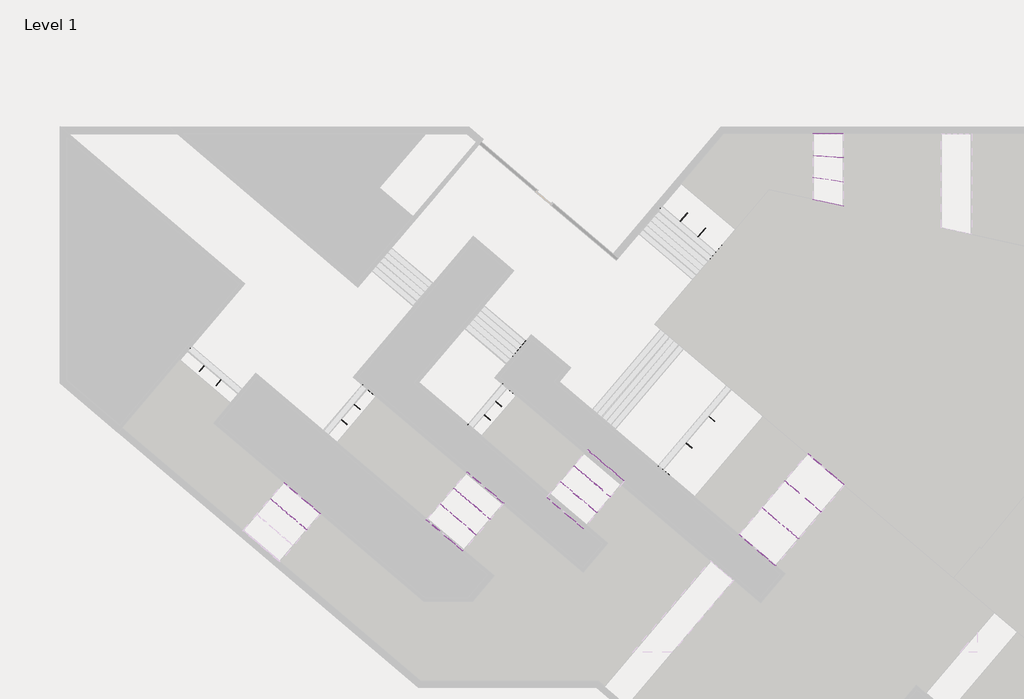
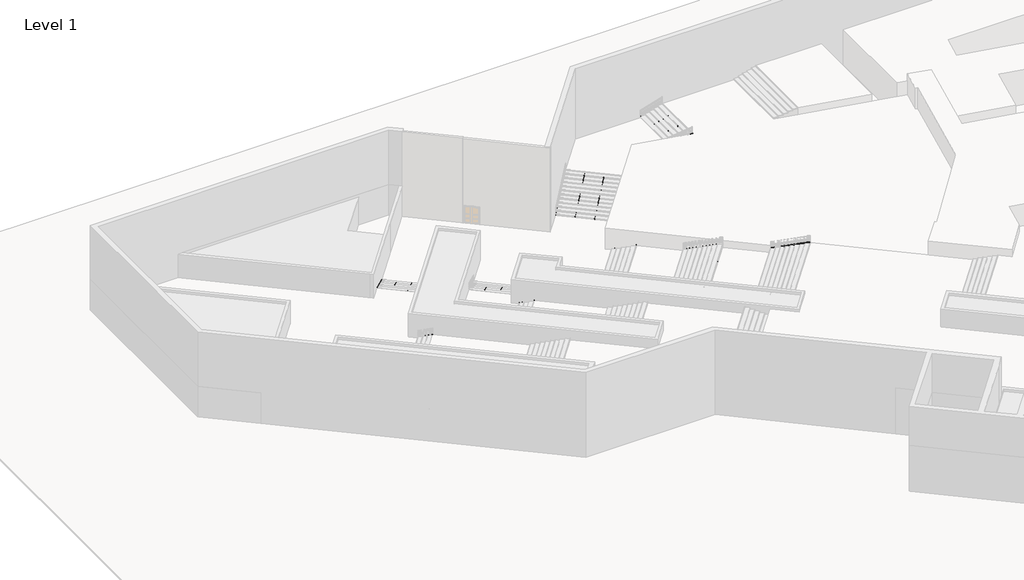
# One storey, part 2 of 2: 50 members.
"""IFC4 building model written with IfcOpenShell, lengths in millimetres."""

import ifcopenshell
import ifcopenshell.guid

model = None  # the IFC model being written
_history = None  # IfcOwnerHistory: only IFC2X3 demands one
_inside = {}  # id of a spatial element -> (the spatial element, [elements in it])
_under = {}  # id of a project, library or spatial element -> (it, [spatial elements below it])
_declared = {}  # id of a project -> (the project, [libraries it declares])
_typed = {}  # id of a type object -> (the type object, [elements of that type])
_made_of = {}  # id of a material, layer set ... -> (it, [elements and type objects made of it])


def new_model(schema):
    """Start an empty IFC model of exactly this schema.

    Asked for "IFC4X3", IfcOpenShell would pick the latest addendum, in which some entities
    have other attributes; the version numbers below select the first issue.
    IFC2X3 requires an IfcOwnerHistory on every rooted entity: one is made here for all.
    """
    global model, _history
    if schema == "IFC4X3":
        model = ifcopenshell.file(schema_version=(4, 3, 0, 0))
    else:
        model = ifcopenshell.file(schema=schema)
    _inside.clear()
    _under.clear()
    _declared.clear()
    _typed.clear()
    _made_of.clear()
    _history = None
    if model.schema == "IFC2X3":
        org = make("IfcOrganization", Name="unknown")
        user = make(
            "IfcPersonAndOrganization",
            ThePerson=make("IfcPerson", FamilyName="unknown"),
            TheOrganization=org,
        )
        app = make(
            "IfcApplication",
            ApplicationDeveloper=org,
            Version="unknown",
            ApplicationFullName="unknown",
            ApplicationIdentifier="unknown",
        )
        _history = make(
            "IfcOwnerHistory",
            OwningUser=user,
            OwningApplication=app,
            ChangeAction="ADDED",
            CreationDate=0,
        )
    return model


def make(cls, **values):
    """One entity of the class cls with the attributes given. An attribute that is None is left unset."""
    return model.create_entity(
        cls, **{name: value for name, value in values.items() if value is not None}
    )


def rooted(cls, **values):
    """An entity with a GlobalId (a new one), such as an element, a storey or a relation."""
    return make(cls, GlobalId=ifcopenshell.guid.new(), OwnerHistory=_history, **values)


def si_unit(unit_type, name, prefix=None):
    """IfcSIUnit, for example si_unit("LENGTHUNIT", "METRE", prefix="MILLI")."""
    return make("IfcSIUnit", UnitType=unit_type, Prefix=prefix, Name=name)


def assignment(units):
    """IfcUnitAssignment: the units of a project."""
    return None if units is None else make("IfcUnitAssignment", Units=units)


def point(xyz):
    """IfcCartesianPoint."""
    return None if xyz is None else make("IfcCartesianPoint", Coordinates=xyz)


def direction(xyz):
    """IfcDirection."""
    return None if xyz is None else make("IfcDirection", DirectionRatios=xyz)


def frame(location, z_axis=None, x_axis=None):
    """IfcAxis2Placement3D, a coordinate frame: its origin and axes. An axis left out is left unset."""
    return make(
        "IfcAxis2Placement3D",
        Location=point(location),
        Axis=direction(z_axis),
        RefDirection=direction(x_axis),
    )


def origin():
    """The frame at (0, 0, 0) with its axes left unset."""
    return frame((0.0, 0.0, 0.0))


def place(relative_to, where):
    """IfcLocalPlacement: puts the frame where relative to a parent placement (None: the world)."""
    return make(
        "IfcLocalPlacement", PlacementRelTo=relative_to, RelativePlacement=where
    )


def context(
    kind, dimensions, precision=None, world=None, true_north=None, identifier=None
):
    """IfcGeometricRepresentationContext, for example the 3D "Model" context."""
    return make(
        "IfcGeometricRepresentationContext",
        ContextIdentifier=identifier,
        ContextType=kind,
        CoordinateSpaceDimension=dimensions,
        Precision=precision,
        WorldCoordinateSystem=world,
        TrueNorth=true_north,
    )


def project(units=None, contexts=None):
    """IfcProject with its units and contexts."""
    return rooted(
        "IfcProject",
        Name="project",
        RepresentationContexts=contexts,
        UnitsInContext=assignment(units),
    )


def spatial(cls, under=None, at=None, **own):
    """A site, building, storey or space (cls), placed at a placement, below another one or the project."""
    s = rooted(cls, ObjectPlacement=at, **own)
    if under is not None:
        _under.setdefault(under.id(), (under, []))[1].append(s)
    return s


def polyline(points):
    """IfcPolyline through the points."""
    return make("IfcPolyline", Points=[point(p) for p in points])


def outline(outer, holes=None, kind="AREA"):
    """IfcArbitraryClosedProfileDef: a profile drawn as a closed curve; with holes, ...WithVoids."""
    if holes is None:
        return make("IfcArbitraryClosedProfileDef", ProfileType=kind, OuterCurve=outer)
    return make(
        "IfcArbitraryProfileDefWithVoids",
        ProfileType=kind,
        OuterCurve=outer,
        InnerCurves=holes,
    )


def extrude(swept, where, along, depth):
    """IfcExtrudedAreaSolid: the profile swept, set in the frame where, extruded along a direction by depth."""
    return make(
        "IfcExtrudedAreaSolid",
        SweptArea=swept,
        Position=where,
        ExtrudedDirection=direction(along),
        Depth=depth,
    )


def faces_of(points, faces, orient=None, outer=None):
    """IfcFace entities. A face is a list of loops; a loop is a list of indices into points, from 0.

    orient and outer hold one flag for each loop. By default every Orientation is true, the
    first loop of a face is its IfcFaceOuterBound and the others are IfcFaceBound.
    """
    made = []
    for i, loops in enumerate(faces):
        bounds = []
        for j, loop in enumerate(loops):
            is_outer = j == 0 if outer is None else outer[i][j]
            bounds.append(
                make(
                    "IfcFaceOuterBound" if is_outer else "IfcFaceBound",
                    Bound=make("IfcPolyLoop", Polygon=[points[k] for k in loop]),
                    Orientation=True if orient is None else orient[i][j],
                )
            )
        made.append(make("IfcFace", Bounds=bounds))
    return made


def faceted_brep(points, faces, orient=None, outer=None, voids=None):
    """IfcFacetedBrep: a solid bounded by flat faces; with voids (closed shells), ...WithVoids."""
    shared = [point(p) for p in points]
    hull = make("IfcClosedShell", CfsFaces=faces_of(shared, faces, orient, outer))
    if voids is None:
        return make("IfcFacetedBrep", Outer=hull)
    return make(
        "IfcFacetedBrepWithVoids",
        Outer=hull,
        Voids=[
            make(cls, CfsFaces=faces_of(shared, fs, o, b)) for cls, fs, o, b in voids
        ],
    )


def shape(context_of_items, identifier, shape_type, items):
    """IfcShapeRepresentation: the items that make up one representation, for example the "Body"."""
    return make(
        "IfcShapeRepresentation",
        ContextOfItems=context_of_items,
        RepresentationIdentifier=identifier,
        RepresentationType=shape_type,
        Items=items,
    )


def made_of(thing, what):
    """Note that an element or type object is made of a material, layer set ...; save() writes the relation."""
    if what is not None:
        _made_of.setdefault(what.id(), (what, []))[1].append(thing)
    return thing


def element(
    cls,
    number,
    at=None,
    inside=None,
    cuts=None,
    type_object=None,
    material=None,
    context=None,
    identifier="Body",
    shape_type=None,
    held_by="IfcProductDefinitionShape",
    body=None,
    shapes=None,
    **own,
):
    """One element of the class cls, such as IfcWall. Its Tag is "e" and its number.

    at: its placement. inside: the storey or other place that contains it. cuts: it is an
    opening in that element (IfcRelVoidsElement). A single representation is given by context,
    identifier, shape_type and body (its items); several are given by shapes. held_by: the class
    of the entity that holds the representations. save() writes the other relations.
    """
    e = rooted(cls, Tag="e%d" % number, ObjectPlacement=at, **own)
    if body is not None:
        shapes = [shape(context, identifier, shape_type, body)]
    if shapes is not None:
        e.Representation = make(held_by, Representations=shapes)
    if inside is not None:
        _inside.setdefault(inside.id(), (inside, []))[1].append(e)
    if cuts is not None:
        rooted(
            "IfcRelVoidsElement", RelatingBuildingElement=cuts, RelatedOpeningElement=e
        )
    if type_object is not None:
        _typed.setdefault(type_object.id(), (type_object, []))[1].append(e)
    return made_of(e, material)


def aggregate(whole, parts):
    """IfcRelAggregates: a whole, such as a stair, and the parts it consists of."""
    return rooted("IfcRelAggregates", RelatingObject=whole, RelatedObjects=parts)


def save(model, path):
    """Write the relations noted so far, then the file.

    IfcRelAggregates (storeys below a building ...), IfcRelContainedInSpatialStructure (elements
    in a storey), IfcRelDefinesByType, IfcRelAssociatesMaterial and IfcRelDeclares: one each for
    every whole, place, type object, material and project.
    """
    for whole, parts in _under.values():
        aggregate(whole, parts)
    for where, things in _inside.values():
        rooted(
            "IfcRelContainedInSpatialStructure",
            RelatedElements=things,
            RelatingStructure=where,
        )
    for kind, things in _typed.values():
        rooted("IfcRelDefinesByType", RelatedObjects=things, RelatingType=kind)
    for what, things in _made_of.values():
        rooted("IfcRelAssociatesMaterial", RelatedObjects=things, RelatingMaterial=what)
    for by, libraries in _declared.values():
        rooted("IfcRelDeclares", RelatingContext=by, RelatedDefinitions=libraries)
    model.write(path)


model = new_model("IFC4")

# Units and contexts
model_context = context("Model", 3, world=origin())
ifc_project = project(units=[si_unit("LENGTHUNIT", "METRE", prefix="MILLI")], contexts=[model_context])

# Site, building, storey
site = spatial("IfcSite", under=ifc_project)
building = spatial("IfcBuilding", under=site)
storey = spatial("IfcBuildingStorey", under=building, Name="Level 1", Elevation=0.0)

# Members
placement = place(None, origin())
element("IfcMember", 1, ObjectType="Stringer - Miscellaneous - 50 mm Width", at=placement, inside=storey, context=model_context, shape_type="SweptSolid", body=[
    extrude(outline(polyline([(-58.1074437, -190.6980903), (0.0, 0.0), (3075.6040788, 0.0), (2953.7204383, -400.0), (628.7834595, -400.0), (-58.1074437, -190.6980903)])), frame((827546.7853878, 68454.2625648, 199.3545501), z_axis=(-0.7621877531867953, 0.6473560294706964, 0.0), x_axis=(-0.6192462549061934, -0.7290917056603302, 0.29147789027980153)), (0.0, 0.0, 1.0), 50.0),
])
element("IfcMember", 2, ObjectType="Stringer - Miscellaneous - 50 mm Width", at=placement, inside=storey, context=model_context, shape_type="SweptSolid", body=[
    extrude(outline(polyline([(-58.1074437, -190.6980903), (0.0, 0.0), (3075.6040788, 0.0), (2953.7204384, -400.0), (628.7834596, -400.0), (-58.1074437, -190.6980903)])), frame((823424.6352229, 71955.6997524, 199.3545501), z_axis=(-0.7621877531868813, 0.647356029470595, 0.0), x_axis=(-0.6192462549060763, -0.729091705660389, 0.29147789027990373)), (0.0, 0.0, 1.0), 50.0),
])
element("IfcMember", 3, ObjectType="Carriage - Miscellaneous - 50 mm Width", at=placement, inside=storey, context=model_context, shape_type="Brep", body=[
    faceted_brep([(824783.997005, 70758.3873852, 0.0), (824340.1890521, 70235.8542333, 0.0), (824302.0796644, 70268.2220348, 0.0), (824745.8891503, 70790.7569915, 0.0), (822862.3711474, 68573.1297673, 677.6677256), (822900.480535, 68540.7619659, 677.6677256), (822900.480535, 68540.7619659, 846.4705882), (822862.3711474, 68573.1297673, 846.4705882), (824783.997005, 70758.3873852, 129.2941176), (824403.0857435, 70309.9079004, 129.2941176), (824403.0857435, 70309.9079004, 308.5882353), (824022.174482, 69861.4284157, 308.5882353), (824022.174482, 69861.4284157, 487.8823529), (823641.2632205, 69412.9489309, 487.8823529), (823641.2632205, 69412.9489309, 667.1764706), (823260.3519591, 68964.4694462, 667.1764706), (823260.3519591, 68964.4694462, 846.4705882), (823222.2441043, 68996.8390525, 846.4705882), (823222.2441043, 68996.8390525, 667.1764706), (823603.1553658, 69445.3185373, 667.1764706), (823603.1553658, 69445.3185373, 487.8823529), (823984.0666273, 69893.798022, 487.8823529), (823984.0666273, 69893.798022, 308.5882353), (824364.9778888, 70342.2775068, 308.5882353), (824364.9778888, 70342.2775068, 129.2941176), (824745.8891503, 70790.7569915, 129.2941176)], [[[0, 1, 2, 3]], [[4, 5, 6, 7]], [[5, 4, 2, 1]], [[6, 5, 1, 0, 8, 9, 10, 11, 12, 13, 14, 15, 16]], [[16, 17, 7, 6]], [[4, 7, 17, 18, 19, 20, 21, 22, 23, 24, 25, 3, 2]], [[25, 8, 0, 3]], [[8, 25, 24, 9]], [[9, 24, 23, 10]], [[10, 23, 22, 11]], [[11, 22, 21, 12]], [[12, 21, 20, 13]], [[13, 20, 19, 14]], [[14, 19, 18, 15]], [[15, 18, 17, 16]]]),
])
element("IfcMember", 4, ObjectType="Carriage - Miscellaneous - 50 mm Width", at=placement, inside=storey, context=model_context, shape_type="Brep", body=[
    faceted_brep([(826145.3439307, 69602.0309232, 0.0), (825701.5359778, 69079.4977713, 0.0), (825663.4265901, 69111.8655727, 0.0), (826107.236076, 69634.4005295, 0.0), (824223.7180731, 67416.7733053, 677.6677256), (824261.8274608, 67384.4055038, 677.6677256), (824261.8274608, 67384.4055038, 846.4705882), (824223.7180731, 67416.7733053, 846.4705882), (826145.3439307, 69602.0309232, 129.2941176), (825764.4326693, 69153.5514384, 129.2941176), (825764.4326693, 69153.5514384, 308.5882353), (825383.5214078, 68705.0719537, 308.5882353), (825383.5214078, 68705.0719537, 487.8823529), (825002.6101463, 68256.5924689, 487.8823529), (825002.6101463, 68256.5924689, 667.1764706), (824621.6988848, 67808.1129841, 667.1764706), (824621.6988848, 67808.1129841, 846.4705882), (824583.5910301, 67840.4825905, 846.4705882), (824583.5910301, 67840.4825905, 667.1764706), (824964.5022916, 68288.9620752, 667.1764706), (824964.5022916, 68288.9620752, 487.8823529), (825345.4135531, 68737.44156, 487.8823529), (825345.4135531, 68737.44156, 308.5882353), (825726.3248145, 69185.9210447, 308.5882353), (825726.3248145, 69185.9210447, 129.2941176), (826107.236076, 69634.4005295, 129.2941176)], [[[0, 1, 2, 3]], [[4, 5, 6, 7]], [[5, 4, 2, 1]], [[6, 5, 1, 0, 8, 9, 10, 11, 12, 13, 14, 15, 16]], [[16, 17, 7, 6]], [[4, 7, 17, 18, 19, 20, 21, 22, 23, 24, 25, 3, 2]], [[25, 8, 0, 3]], [[8, 25, 24, 9]], [[9, 24, 23, 10]], [[10, 23, 22, 11]], [[11, 22, 21, 12]], [[12, 21, 20, 13]], [[13, 20, 19, 14]], [[14, 19, 18, 15]], [[15, 18, 17, 16]]]),
])
element("IfcMember", 5, ObjectType="Stringer - Miscellaneous - 50 mm Width", at=placement, inside=storey, context=model_context, shape_type="SweptSolid", body=[
    extrude(outline(polyline([(-58.1074437, -190.6980903), (0.0, 0.0), (3075.6040788, 0.0), (2953.7204383, -400.0), (628.7834595, -400.0), (-58.1074437, -190.6980903)])), frame((836653.6773492, 62793.748226, 199.3545501), z_axis=(-0.7621877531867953, 0.6473560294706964, 0.0), x_axis=(-0.6192462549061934, -0.7290917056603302, 0.29147789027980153)), (0.0, 0.0, 1.0), 50.0),
])
element("IfcMember", 6, ObjectType="Stringer - Miscellaneous - 50 mm Width", at=placement, inside=storey, context=model_context, shape_type="SweptSolid", body=[
    extrude(outline(polyline([(-58.1074437, -190.6980903), (0.0, 0.0), (3075.6040788, 0.0), (2953.7204384, -400.0), (628.7834595, -400.0), (-58.1074437, -190.6980903)])), frame((832531.5271843, 66295.1854136, 199.3545501), z_axis=(-0.7621877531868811, 0.6473560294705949, 0.0), x_axis=(-0.6192462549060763, -0.729091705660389, 0.2914778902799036)), (0.0, 0.0, 1.0), 50.0),
])
element("IfcMember", 7, ObjectType="Carriage - Miscellaneous - 50 mm Width", at=placement, inside=storey, context=model_context, shape_type="Brep", body=[
    faceted_brep([(833890.8889665, 65097.8730464, 0.0), (833447.0810135, 64575.3398945, 0.0), (833408.9716259, 64607.707696, 0.0), (833852.7811117, 65130.2426527, 0.0), (831969.2631089, 62912.6154285, 677.6677256), (832007.3724965, 62880.2476271, 677.6677256), (832007.3724965, 62880.2476271, 846.4705882), (831969.2631089, 62912.6154285, 846.4705882), (833890.8889665, 65097.8730464, 129.2941176), (833509.977705, 64649.3935616, 129.2941176), (833509.977705, 64649.3935616, 308.5882353), (833129.0664435, 64200.9140769, 308.5882353), (833129.0664435, 64200.9140769, 487.8823529), (832748.155182, 63752.4345921, 487.8823529), (832748.155182, 63752.4345921, 667.1764706), (832367.2439205, 63303.9551074, 667.1764706), (832367.2439205, 63303.9551074, 846.4705882), (832329.1360658, 63336.3247137, 846.4705882), (832329.1360658, 63336.3247137, 667.1764706), (832710.0473273, 63784.8041985, 667.1764706), (832710.0473273, 63784.8041985, 487.8823529), (833090.9585888, 64233.2836832, 487.8823529), (833090.9585888, 64233.2836832, 308.5882353), (833471.8698503, 64681.763168, 308.5882353), (833471.8698503, 64681.763168, 129.2941176), (833852.7811117, 65130.2426527, 129.2941176)], [[[0, 1, 2, 3]], [[4, 5, 6, 7]], [[5, 4, 2, 1]], [[6, 5, 1, 0, 8, 9, 10, 11, 12, 13, 14, 15, 16]], [[16, 17, 7, 6]], [[4, 7, 17, 18, 19, 20, 21, 22, 23, 24, 25, 3, 2]], [[25, 8, 0, 3]], [[8, 25, 24, 9]], [[9, 24, 23, 10]], [[10, 23, 22, 11]], [[11, 22, 21, 12]], [[12, 21, 20, 13]], [[13, 20, 19, 14]], [[14, 19, 18, 15]], [[15, 18, 17, 16]]]),
])
element("IfcMember", 8, ObjectType="Carriage - Miscellaneous - 50 mm Width", at=placement, inside=storey, context=model_context, shape_type="Brep", body=[
    faceted_brep([(835252.2358922, 63941.5165844, 0.0), (834808.4279393, 63418.9834325, 0.0), (834770.3185516, 63451.3512339, 0.0), (835214.1280375, 63973.8861907, 0.0), (833330.6100346, 61756.2589665, 677.6677256), (833368.7194223, 61723.891165, 677.6677256), (833368.7194223, 61723.891165, 846.4705882), (833330.6100346, 61756.2589665, 846.4705882), (835252.2358922, 63941.5165844, 129.2941176), (834871.3246307, 63493.0370996, 129.2941176), (834871.3246307, 63493.0370996, 308.5882353), (834490.4133693, 63044.5576149, 308.5882353), (834490.4133693, 63044.5576149, 487.8823529), (834109.5021078, 62596.0781301, 487.8823529), (834109.5021078, 62596.0781301, 667.1764706), (833728.5908463, 62147.5986454, 667.1764706), (833728.5908463, 62147.5986454, 846.4705882), (833690.4829916, 62179.9682517, 846.4705882), (833690.4829916, 62179.9682517, 667.1764706), (834071.3942531, 62628.4477364, 667.1764706), (834071.3942531, 62628.4477364, 487.8823529), (834452.3055145, 63076.9272212, 487.8823529), (834452.3055145, 63076.9272212, 308.5882353), (834833.216776, 63525.4067059, 308.5882353), (834833.216776, 63525.4067059, 129.2941176), (835214.1280375, 63973.8861907, 129.2941176)], [[[0, 1, 2, 3]], [[4, 5, 6, 7]], [[5, 4, 2, 1]], [[6, 5, 1, 0, 8, 9, 10, 11, 12, 13, 14, 15, 16]], [[16, 17, 7, 6]], [[4, 7, 17, 18, 19, 20, 21, 22, 23, 24, 25, 3, 2]], [[25, 8, 0, 3]], [[8, 25, 24, 9]], [[9, 24, 23, 10]], [[10, 23, 22, 11]], [[11, 22, 21, 12]], [[12, 21, 20, 13]], [[13, 20, 19, 14]], [[14, 19, 18, 15]], [[15, 18, 17, 16]]]),
])
element("IfcMember", 9, ObjectType="Stringer - Miscellaneous - 50 mm Width", at=placement, inside=storey, context=model_context, shape_type="SweptSolid", body=[
    extrude(outline(polyline([(-58.1074437, -190.6980903), (0.0, 0.0), (1845.3624454, 1e-07), (1723.4788048, -400.0), (628.7834587, -400.0), (-58.1074437, -190.6980903)])), frame((808845.9575601, 58066.7587915, 1199.3545501), z_axis=(-0.7621570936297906, 0.6473921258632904, 0.0), x_axis=(-0.6192807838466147, -0.7290623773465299, 0.29147789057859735)), (0.0, 0.0, 1.0), 50.0),
])
element("IfcMember", 10, ObjectType="Stringer - Miscellaneous - 50 mm Width", at=placement, inside=storey, context=model_context, shape_type="SweptSolid", body=[
    extrude(outline(polyline([(-58.1074437, -190.6980903), (0.0, 0.0), (1845.3624454, 1e-07), (1723.4788048, -400.0), (628.7834588, -400.0), (-58.1074437, -190.6980903)])), frame((803856.1847579, 62305.1758436, 1199.3545501), z_axis=(-0.7621570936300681, 0.6473921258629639, 0.0), x_axis=(-0.6192807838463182, -0.7290623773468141, 0.29147789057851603)), (0.0, 0.0, 1.0), 50.0),
])
element("IfcMember", 11, ObjectType="Carriage - Miscellaneous - 50 mm Width", at=placement, inside=storey, context=model_context, shape_type="SweptSolid", body=[
    extrude(outline(polyline([(1772.6811071, -238.5269686), (1723.4788048, -400.0), (628.7834588, -400.0), (-27.0186728, -200.1711217), (10.6677039, -76.4912694), (573.5282478, -248.0), (625.788519, -76.4912694), (1188.6490629, -248.0), (1240.9093341, -76.4912694), (1772.6811071, -238.5269686)])), frame((805525.7936678, 60886.9752252, 1199.3545501), z_axis=(-0.7621570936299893, 0.6473921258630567, 0.0), x_axis=(-0.6192807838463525, -0.7290623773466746, 0.2914778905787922)), (0.0, 0.0, 1.0), 50.0),
])
element("IfcMember", 12, ObjectType="Carriage - Miscellaneous - 50 mm Width", at=placement, inside=storey, context=model_context, shape_type="SweptSolid", body=[
    extrude(outline(polyline([(1772.6811071, -238.5269686), (1723.4788048, -400.0), (628.7834587, -400.0), (-27.0186729, -200.1711217), (10.6677038, -76.4912694), (573.5282477, -248.0), (625.7885189, -76.4912694), (1188.6490629, -248.0), (1240.9093341, -76.4912694), (1772.6811071, -238.5269686)])), frame((807176.3486503, 59484.9594099, 1199.3545501), z_axis=(-0.7621570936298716, 0.6473921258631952, 0.0), x_axis=(-0.6192807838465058, -0.7290623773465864, 0.2914778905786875)), (0.0, 0.0, 1.0), 50.0),
])
element("IfcMember", 13, ObjectType="Carriage - Miscellaneous - 50 mm Width", at=placement, inside=storey, context=model_context, shape_type="SweptSolid", body=[
    extrude(outline(polyline([(1845.3624454, 0.0), (1894.5647477, -161.4730314), (1362.7929747, -323.5087305), (1310.5327035, -151.9999999), (747.6721595, -323.5087306), (695.4118883, -151.9999999), (132.5513444, -323.5087305), (94.8649678, -199.8288782), (750.6670993, 0.0), (1845.3624454, 0.0)])), frame((818025.7527327, 55520.0743492, 781.1971374), z_axis=(0.6473560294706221, 0.7621877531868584, 0.0), x_axis=(0.7290917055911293, -0.619246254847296, 0.2914778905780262)), (0.0, 0.0, 1.0), 50.0),
])
element("IfcMember", 14, ObjectType="Carriage - Miscellaneous - 50 mm Width", at=placement, inside=storey, context=model_context, shape_type="SweptSolid", body=[
    extrude(outline(polyline([(1845.3624454, 0.0), (1894.5647477, -161.4730314), (1362.7929747, -323.5087305), (1310.5327035, -151.9999999), (747.6721595, -323.5087306), (695.4118883, -151.9999999), (132.5513444, -323.5087305), (94.8649677, -199.8288783), (750.6670993, 0.0), (1845.3624454, 0.0)])), frame((819289.7728518, 57008.3136035, 781.1971374), z_axis=(0.6473560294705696, 0.7621877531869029, 0.0), x_axis=(0.7290917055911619, -0.6192462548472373, 0.29147789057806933)), (0.0, 0.0, 1.0), 50.0),
])
element("IfcMember", 15, ObjectType="Stringer - Miscellaneous - 50 mm Width", at=placement, inside=storey, context=model_context, shape_type="SweptSolid", body=[
    extrude(outline(polyline([(121.8836406, -399.9999999), (63.7761968, -209.3019097), (750.6670993, 0.0), (1845.3624455, 1e-07), (1967.2460861, -400.0), (121.8836406, -399.9999999)])), frame((820569.9768716, 58515.6075516, 781.1971374), z_axis=(0.6473560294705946, 0.7621877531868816, 0.0), x_axis=(0.7290917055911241, -0.6192462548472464, 0.2914778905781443)), (0.0, 0.0, 1.0), 50.0),
])
element("IfcMember", 16, ObjectType="Stringer - Miscellaneous - 50 mm Width", at=placement, inside=storey, context=model_context, shape_type="SweptSolid", body=[
    extrude(outline(polyline([(121.8836406, -399.9999999), (63.7761968, -209.3019097), (750.6670994, 1e-07), (1845.3624455, 1e-07), (1967.2460861, -400.0), (121.8836406, -399.9999999)])), frame((816745.5487128, 54012.7804011, 781.1971374), z_axis=(0.647356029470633, 0.762187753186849, 0.0), x_axis=(0.7290917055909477, -0.6192462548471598, 0.29147789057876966)), (0.0, 0.0, 1.0), 50.0),
])
element("IfcMember", 17, ObjectType="Stringer - Miscellaneous - 50 mm Width", at=placement, inside=storey, context=model_context, shape_type="SweptSolid", body=[
    extrude(outline(polyline([(121.8836406, -399.9999999), (63.7761968, -209.3019097), (750.6670993, 0.0), (4920.966521, 1e-07), (5042.8501617, -400.0), (121.8836406, -399.9999999)])), frame((812865.6066756, 48934.6224296, 1481.1971374), z_axis=(0.6473560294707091, 0.7621877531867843, 0.0), x_axis=(0.7290917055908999, -0.6192462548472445, 0.29147789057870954)), (0.0, 0.0, 1.0), 50.0),
])
element("IfcMember", 18, ObjectType="Carriage - Miscellaneous - 50 mm Width", at=placement, inside=storey, context=model_context, shape_type="Brep", body=[
    faceted_brep([(811589.2804163, 47381.6898884, 1700.0), (812111.8128966, 46937.8791738, 1700.0), (812079.444954, 46899.7699061, 1700.0), (811556.9126148, 47343.5805007, 1700.0), (815119.9661059, 44317.3163443, 2915.5500785), (815152.3340485, 44355.425612, 2915.5500785), (815152.3340485, 44355.425612, 3084.3529412), (815119.9661059, 44317.3163443, 3084.3529412), (811589.2804163, 47381.6898884, 1829.2941176), (812037.7584895, 47000.776966, 1829.2941176), (812037.7584895, 47000.776966, 2008.5882353), (812486.2365627, 46619.8640436, 2008.5882353), (812486.2365627, 46619.8640436, 2187.8823529), (812934.7146359, 46238.9511212, 2187.8823529), (812934.7146359, 46238.9511212, 2367.1764706), (813383.1927091, 45858.0381988, 2367.1764706), (813383.1927091, 45858.0381988, 2546.4705882), (813831.6707823, 45477.1252764, 2546.4705882), (813831.6707823, 45477.1252764, 2725.7647059), (814280.1488555, 45096.212354, 2725.7647059), (814280.1488555, 45096.212354, 2905.0588235), (814728.6269287, 44715.2994317, 2905.0588235), (814728.6269287, 44715.2994317, 3084.3529412), (814696.2591273, 44677.190044, 3084.3529412), (814696.2591273, 44677.190044, 2905.0588235), (814247.7810541, 45058.1029664, 2905.0588235), (814247.7810541, 45058.1029664, 2725.7647059), (813799.3029809, 45439.0158888, 2725.7647059), (813799.3029809, 45439.0158888, 2546.4705882), (813350.8249076, 45819.9288112, 2546.4705882), (813350.8249076, 45819.9288112, 2367.1764706), (812902.3468344, 46200.8417336, 2367.1764706), (812902.3468344, 46200.8417336, 2187.8823529), (812453.8687612, 46581.754656, 2187.8823529), (812453.8687612, 46581.754656, 2008.5882353), (812005.390688, 46962.6675784, 2008.5882353), (812005.390688, 46962.6675784, 1829.2941176), (811556.9126148, 47343.5805007, 1829.2941176)], [[[0, 1, 2, 3]], [[4, 5, 6, 7]], [[5, 4, 2, 1]], [[6, 5, 1, 0, 8, 9, 10, 11, 12, 13, 14, 15, 16, 17, 18, 19, 20, 21, 22]], [[22, 23, 7, 6]], [[4, 7, 23, 24, 25, 26, 27, 28, 29, 30, 31, 32, 33, 34, 35, 36, 37, 3, 2]], [[37, 8, 0, 3]], [[8, 37, 36, 9]], [[9, 36, 35, 10]], [[10, 35, 34, 11]], [[11, 34, 33, 12]], [[12, 33, 32, 13]], [[13, 32, 31, 14]], [[14, 31, 30, 15]], [[15, 30, 29, 16]], [[16, 29, 28, 17]], [[17, 28, 27, 18]], [[18, 27, 26, 19]], [[19, 26, 25, 20]], [[20, 25, 24, 21]], [[21, 24, 23, 22]]]),
])
element("IfcMember", 19, ObjectType="Stringer - Miscellaneous - 50 mm Width", at=placement, inside=storey, context=model_context, shape_type="SweptSolid", body=[
    extrude(outline(polyline([(121.8836406, -399.9999999), (63.7761968, -209.3019097), (750.6670993, 0.0), (4920.966521, 1e-07), (5042.8501617, -400.0), (121.8836406, -399.9999999)])), frame((830822.7068012, 49969.3184731, 1481.1971374), z_axis=(0.6473560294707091, 0.7621877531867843, 0.0), x_axis=(0.7290917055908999, -0.6192462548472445, 0.29147789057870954)), (0.0, 0.0, 1.0), 50.0),
])
element("IfcMember", 20, ObjectType="Stringer - Miscellaneous - 50 mm Width", at=placement, inside=storey, context=model_context, shape_type="SweptSolid", body=[
    extrude(outline(polyline([(121.8836406, -399.9999999), (63.7761968, -209.3019097), (750.6670994, 1e-07), (4920.9665213, 1e-07), (5042.850162, -400.0), (121.8836406, -399.9999999)])), frame((826838.4950239, 45278.3652281, 1481.1971374), z_axis=(0.6473644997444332, 0.7621805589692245, 0.0), x_axis=(0.7290848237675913, -0.6192543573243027, 0.29147789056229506)), (0.0, 0.0, 1.0), 50.0),
])
element("IfcMember", 21, ObjectType="Carriage - Miscellaneous - 50 mm Width", at=placement, inside=storey, context=model_context, shape_type="Brep", body=[
    faceted_brep([(828229.0992798, 46865.4377678, 1700.0), (828751.6301867, 46421.6250576, 1700.0), (828719.2621029, 46383.5159097, 1700.0), (828196.7314784, 46827.3283801, 1700.0), (831759.7736884, 43801.0510846, 2915.5500785), (831792.1417722, 43839.1602325, 2915.5500785), (831792.1417722, 43839.1602325, 3084.3529412), (831759.7736884, 43801.0510846, 3084.3529412), (828229.0992798, 46865.4377678, 1829.2941176), (828677.575942, 46484.523184, 1829.2941176), (828677.575942, 46484.523184, 2008.5882353), (829126.0526042, 46103.6086003, 2008.5882353), (829126.0526042, 46103.6086003, 2187.8823529), (829574.5292663, 45722.6940166, 2187.8823529), (829574.5292663, 45722.6940166, 2367.1764706), (830023.0059285, 45341.7794328, 2367.1764706), (830023.0059285, 45341.7794328, 2546.4705882), (830471.4825907, 44960.8648491, 2546.4705882), (830471.4825907, 44960.8648491, 2725.7647059), (830919.9592528, 44579.9502654, 2725.7647059), (830919.9592528, 44579.9502654, 2905.0588235), (831368.435915, 44199.0356816, 2905.0588235), (831368.435915, 44199.0356816, 3084.3529412), (831336.0681135, 44160.926294, 3084.3529412), (831336.0681135, 44160.926294, 2905.0588235), (830887.5914514, 44541.8408777, 2905.0588235), (830887.5914514, 44541.8408777, 2725.7647059), (830439.1147892, 44922.7554614, 2725.7647059), (830439.1147892, 44922.7554614, 2546.4705882), (829990.638127, 45303.6700452, 2546.4705882), (829990.638127, 45303.6700452, 2367.1764706), (829542.1614649, 45684.5846289, 2367.1764706), (829542.1614649, 45684.5846289, 2187.8823529), (829093.6848027, 46065.4992126, 2187.8823529), (829093.6848027, 46065.4992126, 2008.5882353), (828645.2081405, 46446.4137964, 2008.5882353), (828645.2081405, 46446.4137964, 1829.2941176), (828196.7314784, 46827.3283801, 1829.2941176)], [[[0, 1, 2, 3]], [[4, 5, 6, 7]], [[5, 4, 2, 1]], [[6, 5, 1, 0, 8, 9, 10, 11, 12, 13, 14, 15, 16, 17, 18, 19, 20, 21, 22]], [[22, 23, 7, 6]], [[4, 7, 23, 24, 25, 26, 27, 28, 29, 30, 31, 32, 33, 34, 35, 36, 37, 3, 2]], [[37, 8, 0, 3]], [[8, 37, 36, 9]], [[9, 36, 35, 10]], [[10, 35, 34, 11]], [[11, 34, 33, 12]], [[12, 33, 32, 13]], [[13, 32, 31, 14]], [[14, 31, 30, 15]], [[15, 30, 29, 16]], [[16, 29, 28, 17]], [[17, 28, 27, 18]], [[18, 27, 26, 19]], [[19, 26, 25, 20]], [[20, 25, 24, 21]], [[21, 24, 23, 22]]]),
])
element("IfcMember", 22, ObjectType="Carriage - Miscellaneous - 50 mm Width", at=placement, inside=storey, context=model_context, shape_type="Brep", body=[
    faceted_brep([(829546.3805419, 48416.3859319, 1700.0), (830068.9130222, 47972.5752173, 1700.0), (830036.5450796, 47934.4659495, 1700.0), (829514.0127404, 48378.2765442, 1700.0), (833077.0662314, 45352.0123877, 2915.5500785), (833109.4341741, 45390.1216555, 2915.5500785), (833109.4341741, 45390.1216555, 3084.3529412), (833077.0662314, 45352.0123877, 3084.3529412), (829546.3805419, 48416.3859319, 1829.2941176), (829994.8586151, 48035.4730095, 1829.2941176), (829994.8586151, 48035.4730095, 2008.5882353), (830443.3366883, 47654.5600871, 2008.5882353), (830443.3366883, 47654.5600871, 2187.8823529), (830891.8147615, 47273.6471647, 2187.8823529), (830891.8147615, 47273.6471647, 2367.1764706), (831340.2928347, 46892.7342423, 2367.1764706), (831340.2928347, 46892.7342423, 2546.4705882), (831788.7709079, 46511.8213199, 2546.4705882), (831788.7709079, 46511.8213199, 2725.7647059), (832237.2489811, 46130.9083975, 2725.7647059), (832237.2489811, 46130.9083975, 2905.0588235), (832685.7270543, 45749.9954751, 2905.0588235), (832685.7270543, 45749.9954751, 3084.3529412), (832653.3592528, 45711.8860874, 3084.3529412), (832653.3592528, 45711.8860874, 2905.0588235), (832204.8811796, 46092.7990098, 2905.0588235), (832204.8811796, 46092.7990098, 2725.7647059), (831756.4031064, 46473.7119322, 2725.7647059), (831756.4031064, 46473.7119322, 2546.4705882), (831307.9250332, 46854.6248546, 2546.4705882), (831307.9250332, 46854.6248546, 2367.1764706), (830859.44696, 47235.537777, 2367.1764706), (830859.44696, 47235.537777, 2187.8823529), (830410.9688868, 47616.4506994, 2187.8823529), (830410.9688868, 47616.4506994, 2008.5882353), (829962.4908136, 47997.3636218, 2008.5882353), (829962.4908136, 47997.3636218, 1829.2941176), (829514.0127404, 48378.2765442, 1829.2941176)], [[[0, 1, 2, 3]], [[4, 5, 6, 7]], [[5, 4, 2, 1]], [[6, 5, 1, 0, 8, 9, 10, 11, 12, 13, 14, 15, 16, 17, 18, 19, 20, 21, 22]], [[22, 23, 7, 6]], [[4, 7, 23, 24, 25, 26, 27, 28, 29, 30, 31, 32, 33, 34, 35, 36, 37, 3, 2]], [[37, 8, 0, 3]], [[8, 37, 36, 9]], [[9, 36, 35, 10]], [[10, 35, 34, 11]], [[11, 34, 33, 12]], [[12, 33, 32, 13]], [[13, 32, 31, 14]], [[14, 31, 30, 15]], [[15, 30, 29, 16]], [[16, 29, 28, 17]], [[17, 28, 27, 18]], [[18, 27, 26, 19]], [[19, 26, 25, 20]], [[20, 25, 24, 21]], [[21, 24, 23, 22]]]),
])
element("IfcMember", 23, ObjectType="Stringer - Miscellaneous - 50 mm Width", at=placement, inside=storey, context=model_context, shape_type="SweptSolid", body=[
    extrude(outline(polyline([(121.8836406, -399.9999999), (63.7761968, -209.3019097), (750.6670994, 1e-07), (4920.9665211, 1e-07), (5042.8501617, -400.0), (121.8836406, -399.9999999)])), frame((842615.2334214, 52157.6769877, 1481.1971374), z_axis=(0.6473560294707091, 0.7621877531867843, 0.0), x_axis=(0.7290917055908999, -0.6192462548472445, 0.29147789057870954)), (0.0, 0.0, 1.0), 50.0),
])
element("IfcMember", 24, ObjectType="Stringer - Miscellaneous - 50 mm Width", at=placement, inside=storey, context=model_context, shape_type="SweptSolid", body=[
    extrude(outline(polyline([(121.8836406, -399.9999999), (63.7761968, -209.3019097), (750.6670994, 1e-07), (4920.9665213, 1e-07), (5042.850162, -400.0), (121.8836406, -399.9999999)])), frame((838631.0216441, 47466.7237427, 1481.1971374), z_axis=(0.6473644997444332, 0.7621805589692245, 0.0), x_axis=(0.7290848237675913, -0.6192543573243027, 0.29147789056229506)), (0.0, 0.0, 1.0), 50.0),
])
element("IfcMember", 25, ObjectType="Carriage - Miscellaneous - 50 mm Width", at=placement, inside=storey, context=model_context, shape_type="Brep", body=[
    faceted_brep([(840021.6259, 49053.7962824, 1700.0), (840544.1568069, 48609.9835722, 1700.0), (840511.7887231, 48571.8744243, 1700.0), (839989.2580986, 49015.6868947, 1700.0), (843552.3003086, 45989.4095992, 2915.5500785), (843584.6683924, 46027.5187471, 2915.5500785), (843584.6683924, 46027.5187471, 3084.3529412), (843552.3003086, 45989.4095992, 3084.3529412), (840021.6259, 49053.7962824, 1829.2941176), (840470.1025622, 48672.8816986, 1829.2941176), (840470.1025622, 48672.8816986, 2008.5882353), (840918.5792244, 48291.9671149, 2008.5882353), (840918.5792244, 48291.9671149, 2187.8823529), (841367.0558865, 47911.0525312, 2187.8823529), (841367.0558865, 47911.0525312, 2367.1764706), (841815.5325487, 47530.1379474, 2367.1764706), (841815.5325487, 47530.1379474, 2546.4705882), (842264.0092109, 47149.2233637, 2546.4705882), (842264.0092109, 47149.2233637, 2725.7647059), (842712.485873, 46768.3087799, 2725.7647059), (842712.485873, 46768.30878, 2905.0588235), (843160.9625352, 46387.3941962, 2905.0588235), (843160.9625352, 46387.3941962, 3084.3529412), (843128.5947337, 46349.2848086, 3084.3529412), (843128.5947337, 46349.2848086, 2905.0588235), (842680.1180716, 46730.1993923, 2905.0588235), (842680.1180716, 46730.1993923, 2725.7647059), (842231.6414094, 47111.113976, 2725.7647059), (842231.6414094, 47111.113976, 2546.4705882), (841783.1647472, 47492.0285598, 2546.4705882), (841783.1647472, 47492.0285598, 2367.1764706), (841334.6880851, 47872.9431435, 2367.1764706), (841334.6880851, 47872.9431435, 2187.8823529), (840886.2114229, 48253.8577272, 2187.8823529), (840886.2114229, 48253.8577272, 2008.5882353), (840437.7347607, 48634.772311, 2008.5882353), (840437.7347607, 48634.772311, 1829.2941176), (839989.2580986, 49015.6868947, 1829.2941176)], [[[0, 1, 2, 3]], [[4, 5, 6, 7]], [[5, 4, 2, 1]], [[6, 5, 1, 0, 8, 9, 10, 11, 12, 13, 14, 15, 16, 17, 18, 19, 20, 21, 22]], [[22, 23, 7, 6]], [[4, 7, 23, 24, 25, 26, 27, 28, 29, 30, 31, 32, 33, 34, 35, 36, 37, 3, 2]], [[37, 8, 0, 3]], [[8, 37, 36, 9]], [[9, 36, 35, 10]], [[10, 35, 34, 11]], [[11, 34, 33, 12]], [[12, 33, 32, 13]], [[13, 32, 31, 14]], [[14, 31, 30, 15]], [[15, 30, 29, 16]], [[16, 29, 28, 17]], [[17, 28, 27, 18]], [[18, 27, 26, 19]], [[19, 26, 25, 20]], [[20, 25, 24, 21]], [[21, 24, 23, 22]]]),
])
element("IfcMember", 26, ObjectType="Carriage - Miscellaneous - 50 mm Width", at=placement, inside=storey, context=model_context, shape_type="Brep", body=[
    faceted_brep([(841338.9071621, 50604.7444464, 1700.0), (841861.4396424, 50160.9337319, 1700.0), (841829.0716998, 50122.8244641, 1700.0), (841306.5393606, 50566.6350588, 1700.0), (844869.5928516, 47540.3709023, 2915.5500785), (844901.9607943, 47578.4801701, 2915.5500785), (844901.9607943, 47578.4801701, 3084.3529412), (844869.5928516, 47540.3709023, 3084.3529412), (841338.9071621, 50604.7444464, 1829.2941176), (841787.3852353, 50223.8315241, 1829.2941176), (841787.3852353, 50223.8315241, 2008.5882353), (842235.8633085, 49842.9186017, 2008.5882353), (842235.8633085, 49842.9186017, 2187.8823529), (842684.3413817, 49462.0056793, 2187.8823529), (842684.3413817, 49462.0056793, 2367.1764706), (843132.8194549, 49081.0927569, 2367.1764706), (843132.8194549, 49081.0927569, 2546.4705882), (843581.2975281, 48700.1798345, 2546.4705882), (843581.2975281, 48700.1798345, 2725.7647059), (844029.7756013, 48319.2669121, 2725.7647059), (844029.7756013, 48319.2669121, 2905.0588235), (844478.2536745, 47938.3539897, 2905.0588235), (844478.2536745, 47938.3539897, 3084.3529412), (844445.8858731, 47900.244602, 3084.3529412), (844445.8858731, 47900.244602, 2905.0588235), (843997.4077998, 48281.1575244, 2905.0588235), (843997.4077998, 48281.1575244, 2725.7647059), (843548.9297266, 48662.0704468, 2725.7647059), (843548.9297266, 48662.0704468, 2546.4705882), (843100.4516534, 49042.9833692, 2546.4705882), (843100.4516534, 49042.9833692, 2367.1764706), (842651.9735802, 49423.8962916, 2367.1764706), (842651.9735802, 49423.8962916, 2187.8823529), (842203.495507, 49804.809214, 2187.8823529), (842203.495507, 49804.809214, 2008.5882353), (841755.0174338, 50185.7221364, 2008.5882353), (841755.0174338, 50185.7221364, 1829.2941176), (841306.5393606, 50566.6350588, 1829.2941176)], [[[0, 1, 2, 3]], [[4, 5, 6, 7]], [[5, 4, 2, 1]], [[6, 5, 1, 0, 8, 9, 10, 11, 12, 13, 14, 15, 16, 17, 18, 19, 20, 21, 22]], [[22, 23, 7, 6]], [[4, 7, 23, 24, 25, 26, 27, 28, 29, 30, 31, 32, 33, 34, 35, 36, 37, 3, 2]], [[37, 8, 0, 3]], [[8, 37, 36, 9]], [[9, 36, 35, 10]], [[10, 35, 34, 11]], [[11, 34, 33, 12]], [[12, 33, 32, 13]], [[13, 32, 31, 14]], [[14, 31, 30, 15]], [[15, 30, 29, 16]], [[16, 29, 28, 17]], [[17, 28, 27, 18]], [[18, 27, 26, 19]], [[19, 26, 25, 20]], [[20, 25, 24, 21]], [[21, 24, 23, 22]]]),
])
element("IfcMember", 27, ObjectType="Stringer - Miscellaneous - 50 mm Width", at=placement, inside=storey, context=model_context, shape_type="SweptSolid", body=[
    extrude(outline(polyline([(121.8836406, -399.9999999), (63.7761968, -209.3019097), (750.6670993, 0.0), (3075.6040756, 0.0), (3197.4877162, -399.9999999), (121.8836406, -399.9999999)])), frame((849813.2670593, 63978.6082373, -218.8028626), z_axis=(0.647356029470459, 0.7621877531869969, 0.0), x_axis=(0.7290917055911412, -0.6192462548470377, 0.2914778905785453)), (0.0, 0.0, 1.0), 50.0),
])
element("IfcMember", 28, ObjectType="Stringer - Miscellaneous - 50 mm Width", at=placement, inside=storey, context=model_context, shape_type="SweptSolid", body=[
    extrude(outline(polyline([(121.8836406, -399.9999999), (63.7761968, -209.3019097), (750.6670993, 0.0), (3075.6040757, 0.0), (3197.4877163, -399.9999999), (121.8836406, -399.9999999)])), frame((843081.4702868, 56052.6867609, -218.8028626), z_axis=(0.6473560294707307, 0.7621877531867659, 0.0), x_axis=(0.7290917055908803, -0.6192462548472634, 0.2914778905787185)), (0.0, 0.0, 1.0), 50.0),
])
element("IfcMember", 29, ObjectType="Carriage - Miscellaneous - 50 mm Width", at=placement, inside=storey, context=model_context, shape_type="SweptSolid", body=[
    extrude(outline(polyline([(3075.6040757, 0.0), (3124.806378, -161.4730314), (2593.034605, -323.5087305), (2540.7743338, -152.0), (1977.9137898, -323.5087306), (1925.6535186, -151.9999999), (1362.7929747, -323.5087305), (1310.5327035, -151.9999999), (747.6721595, -323.5087306), (695.4118883, -151.9999999), (132.5513444, -323.5087305), (94.8649678, -199.8288782), (750.6670993, 0.0), (3075.6040757, 0.0)])), frame((845330.7971779, 58701.012151, -218.8028626), z_axis=(0.6473560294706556, 0.7621877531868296, 0.0), x_axis=(0.729091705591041, -0.6192462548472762, 0.291477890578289)), (0.0, 0.0, 1.0), 50.0),
])
element("IfcMember", 30, ObjectType="Carriage - Miscellaneous - 50 mm Width", at=placement, inside=storey, context=model_context, shape_type="SweptSolid", body=[
    extrude(outline(polyline([(3075.6040757, 0.0), (3124.806378, -161.4730314), (2593.0346049, -323.5087305), (2540.7743337, -152.0), (1977.9137898, -323.5087306), (1925.6535186, -151.9999999), (1362.7929746, -323.5087305), (1310.5327035, -152.0), (747.6721595, -323.5087306), (695.4118883, -151.9999999), (132.5513444, -323.5087305), (94.8649677, -199.8288782), (750.6670993, 0.0), (3075.6040757, 0.0)])), frame((847563.9401682, 61330.2828472, -218.8028626), z_axis=(0.6473560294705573, 0.7621877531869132, 0.0), x_axis=(0.7290917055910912, -0.619246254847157, 0.2914778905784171)), (0.0, 0.0, 1.0), 50.0),
])
element("IfcMember", 31, ObjectType="Stringer - Miscellaneous - 50 mm Width", at=placement, inside=storey, context=model_context, shape_type="SweptSolid", body=[
    extrude(outline(polyline([(121.8836406, -399.9999999), (63.7761968, -209.3019097), (750.6670993, 0.0), (4920.966521, 1e-07), (5042.8501617, -400.0), (121.8836406, -399.9999999)])), frame((856286.9506802, 58480.2541804, 781.1971374), z_axis=(0.6473560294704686, 0.7621877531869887, 0.0), x_axis=(0.7290917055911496, -0.6192462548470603, 0.2914778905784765)), (0.0, 0.0, 1.0), 50.0),
])
element("IfcMember", 32, ObjectType="Stringer - Miscellaneous - 50 mm Width", at=placement, inside=storey, context=model_context, shape_type="SweptSolid", body=[
    extrude(outline(polyline([(121.8836406, -399.9999999), (63.7761968, -209.3019097), (750.6670993, 0.0), (4920.9665211, 1e-07), (5042.8501617, -400.0), (121.8836406, -399.9999999)])), frame((849555.1539077, 50554.3327039, 781.1971374), z_axis=(0.64735602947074, 0.762187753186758, 0.0), x_axis=(0.7290917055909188, -0.6192462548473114, 0.29147789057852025)), (0.0, 0.0, 1.0), 50.0),
])
element("IfcMember", 33, ObjectType="Carriage - Miscellaneous - 50 mm Width", at=placement, inside=storey, context=model_context, shape_type="SweptSolid", body=[
    extrude(outline(polyline([(4920.966521, 1e-07), (4970.1688234, -161.4730314), (4438.3970503, -323.5087306), (4386.1367791, -151.9999999), (3823.2762352, -323.5087306), (3771.015964, -152.0), (3208.1554201, -323.5087306), (3155.8951488, -151.9999999), (2593.0346049, -323.5087305), (2540.7743337, -152.0), (1977.9137898, -323.5087306), (1925.6535186, -151.9999999), (1362.7929746, -323.5087305), (1310.5327035, -152.0), (747.6721595, -323.5087306), (695.4118883, -151.9999999), (132.5513444, -323.5087305), (94.8649677, -199.8288782), (750.6670993, 0.0), (4920.966521, 1e-07)])), frame((851804.4807988, 53202.658094, 781.1971374), z_axis=(0.6473560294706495, 0.7621877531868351, 0.0), x_axis=(0.7290917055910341, -0.6192462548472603, 0.2914778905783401)), (0.0, 0.0, 1.0), 50.0),
])
element("IfcMember", 34, ObjectType="Carriage - Miscellaneous - 50 mm Width", at=placement, inside=storey, context=model_context, shape_type="SweptSolid", body=[
    extrude(outline(polyline([(4920.966521, 1e-07), (4970.1688234, -161.4730314), (4438.3970504, -323.5087306), (4386.1367792, -151.9999999), (3823.2762352, -323.5087305), (3771.0159641, -152.0), (3208.1554201, -323.5087306), (3155.8951489, -151.9999999), (2593.034605, -323.5087305), (2540.7743338, -152.0), (1977.9137899, -323.5087306), (1925.6535186, -151.9999999), (1362.7929747, -323.5087305), (1310.5327035, -151.9999999), (747.6721596, -323.5087306), (695.4118884, -151.9999999), (132.5513444, -323.5087305), (94.8649678, -199.8288782), (750.6670993, 0.0), (4920.966521, 1e-07)])), frame((854037.6237891, 55831.9287903, 781.1971374), z_axis=(0.6473560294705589, 0.762187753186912, 0.0), x_axis=(0.7290917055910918, -0.6192462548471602, 0.29147789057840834)), (0.0, 0.0, 1.0), 50.0),
])
element("IfcMember", 35, ObjectType="Stringer - Miscellaneous - 50 mm Width", at=placement, inside=storey, context=model_context, shape_type="SweptSolid", body=[
    extrude(outline(polyline([(121.8836406, -399.9999999), (63.7761968, -209.3019097), (750.6670993, 0.0), (4920.966521, 1e-07), (5042.8501617, -400.0), (121.8836406, -399.9999999)])), frame((864199.3140331, 51759.9728554, 2281.1971374), z_axis=(0.6473560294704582, 0.7621877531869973, 0.0), x_axis=(0.7290917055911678, -0.619246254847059, 0.29147789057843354)), (0.0, 0.0, 1.0), 50.0),
])
element("IfcMember", 36, ObjectType="Stringer - Miscellaneous - 50 mm Width", at=placement, inside=storey, context=model_context, shape_type="SweptSolid", body=[
    extrude(outline(polyline([(121.8836406, -399.9999999), (63.7761968, -209.3019097), (750.6670993, 0.0), (4920.966521, 1e-07), (5042.8501617, -400.0), (121.8836406, -399.9999999)])), frame((857467.5172606, 43834.051379, 2281.1971374), z_axis=(0.6473560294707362, 0.7621877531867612, 0.0), x_axis=(0.7290917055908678, -0.619246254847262, 0.2914778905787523)), (0.0, 0.0, 1.0), 50.0),
])
element("IfcMember", 37, ObjectType="Carriage - Miscellaneous - 50 mm Width", at=placement, inside=storey, context=model_context, shape_type="SweptSolid", body=[
    extrude(outline(polyline([(4920.966521, 1e-07), (4970.1688234, -161.4730314), (4438.3970503, -323.5087306), (4386.1367791, -151.9999999), (3823.2762352, -323.5087305), (3771.0159641, -152.0), (3208.1554201, -323.5087306), (3155.8951488, -151.9999999), (2593.034605, -323.5087305), (2540.7743338, -152.0), (1977.9137898, -323.5087306), (1925.6535186, -151.9999999), (1362.7929747, -323.5087305), (1310.5327035, -151.9999999), (747.6721595, -323.5087306), (695.4118883, -151.9999999), (132.5513444, -323.5087305), (94.8649678, -199.8288782), (750.6670993, 0.0), (4920.966521, 1e-07)])), frame((859716.8441517, 46482.3767691, 2281.1971374), z_axis=(0.6473560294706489, 0.7621877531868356, 0.0), x_axis=(0.7290917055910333, -0.6192462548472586, 0.291477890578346)), (0.0, 0.0, 1.0), 50.0),
])
element("IfcMember", 38, ObjectType="Carriage - Miscellaneous - 50 mm Width", at=placement, inside=storey, context=model_context, shape_type="SweptSolid", body=[
    extrude(outline(polyline([(4920.966521, 1e-07), (4970.1688234, -161.4730314), (4438.3970504, -323.5087306), (4386.1367792, -151.9999999), (3823.2762352, -323.5087306), (3771.015964, -152.0), (3208.1554201, -323.5087306), (3155.8951489, -151.9999999), (2593.0346049, -323.5087305), (2540.7743337, -152.0), (1977.9137898, -323.5087306), (1925.6535186, -151.9999999), (1362.7929746, -323.5087305), (1310.5327035, -152.0), (747.6721595, -323.5087306), (695.4118883, -151.9999999), (132.5513444, -323.5087305), (94.8649677, -199.8288782), (750.6670993, 0.0), (4920.966521, 1e-07)])), frame((861949.987142, 49111.6474653, 2281.1971374), z_axis=(0.6473560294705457, 0.762187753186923, 0.0), x_axis=(0.7290917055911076, -0.6192462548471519, 0.291477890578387)), (0.0, 0.0, 1.0), 50.0),
])
element("IfcMember", 39, ObjectType="Stringer - Miscellaneous - 50 mm Width", at=placement, inside=storey, context=model_context, shape_type="SweptSolid", body=[
    extrude(outline(polyline([(121.8836406, -399.9999999), (63.7761968, -209.3019097), (750.6670993, 0.0), (6766.3289665, 0.0), (6888.2126071, -399.9999999), (121.8836406, -399.9999999)])), frame((847649.8599786, 73306.2455031, -218.8028626), z_axis=(-0.7621877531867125, 0.6473560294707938, 0.0), x_axis=(0.6192462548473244, 0.7290917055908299, 0.2914778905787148)), (0.0, 0.0, 1.0), 50.0),
])
element("IfcMember", 40, ObjectType="Stringer - Miscellaneous - 50 mm Width", at=placement, inside=storey, context=model_context, shape_type="SweptSolid", body=[
    extrude(outline(polyline([(121.8836406, -399.9999999), (63.7761968, -209.3019097), (750.6670993, 0.0), (6766.3289665, 0.0), (6888.2126071, -399.9999999), (121.8836406, -399.9999999)])), frame((852979.1477537, 68779.8718378, -218.8028626), z_axis=(-0.7621877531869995, 0.6473560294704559, 0.0), x_axis=(0.6192462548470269, 0.7290917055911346, 0.29147789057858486)), (0.0, 0.0, 1.0), 50.0),
])
element("IfcMember", 41, ObjectType="Carriage - Miscellaneous - 50 mm Width", at=placement, inside=storey, context=model_context, shape_type="SweptSolid", body=[
    extrude(outline(polyline([(6766.3289665, 0.0), (6815.5312688, -161.4730314), (6283.7594958, -323.5087305), (6231.4992246, -152.0), (5668.6386807, -323.5087306), (5616.3784094, -151.9999999), (5053.5178655, -323.5087305), (5001.2575943, -152.0), (4438.3970504, -323.5087306), (4386.1367792, -151.9999999), (3823.2762352, -323.5087305), (3771.0159641, -152.0), (3208.1554201, -323.5087306), (3155.8951489, -151.9999999), (2593.034605, -323.5087305), (2540.7743338, -152.0), (1977.9137898, -323.5087306), (1925.6535186, -151.9999999), (1362.7929747, -323.5087305), (1310.5327035, -151.9999999), (747.6721595, -323.5087306), (695.4118883, -151.9999999), (132.5513444, -323.5087305), (94.8649678, -199.8288782), (750.6670994, 1e-07), (6766.3289665, 0.0)])), frame((851196.3669307, 70294.0576932, -218.8028626), z_axis=(-0.7621877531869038, 0.6473560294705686, 0.0), x_axis=(0.6192462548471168, 0.7290917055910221, 0.29147789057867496)), (0.0, 0.0, 1.0), 50.0),
])
element("IfcMember", 42, ObjectType="Carriage - Miscellaneous - 50 mm Width", at=placement, inside=storey, context=model_context, shape_type="SweptSolid", body=[
    extrude(outline(polyline([(6766.3289665, 0.0), (6815.5312688, -161.4730314), (6283.7594958, -323.5087305), (6231.4992246, -152.0), (5668.6386806, -323.5087306), (5616.3784094, -151.9999999), (5053.5178654, -323.5087306), (5001.2575943, -152.0), (4438.3970503, -323.5087306), (4386.1367791, -151.9999999), (3823.2762352, -323.5087306), (3771.015964, -152.0), (3208.1554201, -323.5087306), (3155.8951488, -151.9999999), (2593.0346049, -323.5087305), (2540.7743337, -152.0), (1977.9137898, -323.5087306), (1925.6535186, -151.9999999), (1362.7929746, -323.5087305), (1310.5327035, -152.0), (747.6721595, -323.5087306), (695.4118883, -151.9999999), (132.5513444, -323.5087305), (94.8649677, -199.8288782), (750.6670993, 0.0), (6766.3289665, 0.0)])), frame((849432.6408016, 71792.0596478, -218.8028626), z_axis=(-0.7621877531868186, 0.6473560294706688, 0.0), x_axis=(0.619246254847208, 0.7290917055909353, 0.2914778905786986)), (0.0, 0.0, 1.0), 50.0),
])
element("IfcMember", 43, ObjectType="Stringer - Miscellaneous - 50 mm Width", at=placement, inside=storey, context=model_context, shape_type="SweptSolid", body=[
    extrude(outline(polyline([(2199.3545501, 864749.1286387), (2000.0, 864749.1286387), (2000.0, 865467.1999453), (2677.6677256, 867691.1824987), (3095.8251383, 867691.1824987), (2199.3545501, 864749.1286387)])), frame((0.0, 83137.2219152, 0.0), z_axis=(0.0, 1.0, 0.0), x_axis=(0.0, 0.0, 1.0)), (0.0, 0.0, 1.0), 50.0),
])
element("IfcMember", 44, ObjectType="Stringer - Miscellaneous - 50 mm Width", at=placement, inside=storey, context=model_context, shape_type="SweptSolid", body=[
    extrude(outline(polyline([(118.9943577, -400.0), (62.2314549, -209.1912796), (765.4287616, 0.0), (3144.0066578, 0.0), (3263.0010155, -400.0), (118.9943577, -400.0)])), frame((864738.3063732, 76660.0394677, 1781.7484354), z_axis=(0.21644531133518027, 0.9762947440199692, 0.0), x_axis=(0.9357657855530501, -0.20746000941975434, 0.28513635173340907)), (0.0, 0.0, 1.0), 50.0),
])
element("IfcMember", 45, ObjectType="Carriage - Miscellaneous - 50 mm Width", at=placement, inside=storey, context=model_context, shape_type="Brep", body=[
    faceted_brep([(864781.6286387, 78872.1115119, 2000.0), (865470.0321926, 78770.3651063, 2000.0), (865462.7215851, 78720.9024434, 2000.0), (864781.6286387, 78821.5683374, 2000.0), (867687.5271949, 78392.0750097, 2677.9185184), (867694.8378024, 78441.5376725, 2677.9185184), (867694.8378024, 78441.5376725, 2846.4705882), (867687.5271949, 78392.0750097, 2846.4705882), (864781.6286387, 78872.1115119, 2129.2941176), (865370.0394107, 78785.1440918, 2129.2941176), (865370.0394107, 78785.1440918, 2308.5882353), (865958.4501827, 78698.1766717, 2308.5882353), (865958.4501827, 78698.1766717, 2487.8823529), (866546.8609547, 78611.2092516, 2487.8823529), (866546.8609547, 78611.2092516, 2667.1764706), (867135.2717267, 78524.2418314, 2667.1764706), (867135.2717267, 78524.2418314, 2846.4705882), (867135.2717267, 78473.698657, 2846.4705882), (867135.2717267, 78473.698657, 2667.1764706), (866546.8609547, 78560.6660771, 2667.1764706), (866546.8609547, 78560.6660771, 2487.8823529), (865958.4501827, 78647.6334972, 2487.8823529), (865958.4501827, 78647.6334972, 2308.5882353), (865370.0394107, 78734.6009173, 2308.5882353), (865370.0394107, 78734.6009173, 2129.2941176), (864781.6286387, 78821.5683374, 2129.2941176)], [[[0, 1, 2, 3]], [[4, 5, 6, 7]], [[5, 4, 2, 1]], [[6, 5, 1, 0, 8, 9, 10, 11, 12, 13, 14, 15, 16]], [[16, 17, 7, 6]], [[4, 7, 17, 18, 19, 20, 21, 22, 23, 24, 25, 3, 2]], [[25, 8, 0, 3]], [[8, 25, 24, 9]], [[9, 24, 23, 10]], [[10, 23, 22, 11]], [[11, 22, 21, 12]], [[12, 21, 20, 13]], [[13, 20, 19, 14]], [[14, 19, 18, 15]], [[15, 18, 17, 16]]]),
])
element("IfcMember", 46, ObjectType="Carriage - Miscellaneous - 50 mm Width", at=placement, inside=storey, context=model_context, shape_type="Brep", body=[
    faceted_brep([(864781.6286387, 81017.0990926, 2000.0), (865468.833708, 80966.3144581, 2000.0), (865465.1487435, 80916.4504326, 2000.0), (864781.6286387, 80966.9627473, 2000.0), (867689.3400164, 80752.0821154, 2677.7313243), (867693.0249809, 80801.9461409, 2677.7313243), (867693.0249809, 80801.9461409, 2846.4705882), (867689.3400164, 80752.0821154, 2846.4705882), (864781.6286387, 81017.0990926, 2129.2941176), (865370.0394107, 80973.6153825, 2129.2941176), (865370.0394107, 80973.6153825, 2308.5882353), (865958.4501827, 80930.1316725, 2308.5882353), (865958.4501827, 80930.1316725, 2487.8823529), (866546.8609547, 80886.6479624, 2487.8823529), (866546.8609547, 80886.6479624, 2667.1764706), (867135.2717267, 80843.1642524, 2667.1764706), (867135.2717267, 80843.1642524, 2846.4705882), (867135.2717267, 80793.027907, 2846.4705882), (867135.2717267, 80793.027907, 2667.1764706), (866546.8609547, 80836.5116171, 2667.1764706), (866546.8609547, 80836.5116171, 2487.8823529), (865958.4501827, 80879.9953272, 2487.8823529), (865958.4501827, 80879.9953272, 2308.5882353), (865370.0394107, 80923.4790372, 2308.5882353), (865370.0394107, 80923.4790372, 2129.2941176), (864781.6286387, 80966.9627473, 2129.2941176)], [[[0, 1, 2, 3]], [[4, 5, 6, 7]], [[5, 4, 2, 1]], [[6, 5, 1, 0, 8, 9, 10, 11, 12, 13, 14, 15, 16]], [[16, 17, 7, 6]], [[4, 7, 17, 18, 19, 20, 21, 22, 23, 24, 25, 3, 2]], [[25, 8, 0, 3]], [[8, 25, 24, 9]], [[9, 24, 23, 10]], [[10, 23, 22, 11]], [[11, 22, 21, 12]], [[12, 21, 20, 13]], [[13, 20, 19, 14]], [[14, 19, 18, 15]], [[15, 18, 17, 16]]]),
])
element("IfcMember", 47, ObjectType="Stringer - Miscellaneous - 50 mm Width", at=placement, inside=storey, context=model_context, shape_type="SweptSolid", body=[
    extrude(outline(polyline([(121.8836406, -399.9999999), (63.7761968, -209.3019097), (750.6670993, 0.0), (1845.3624455, 1e-07), (1967.2460861, -400.0), (121.8836406, -399.9999999)])), frame((834296.2642236, 58608.0550017, 781.1971374), z_axis=(0.6473560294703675, 0.7621877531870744, 0.0), x_axis=(0.7290917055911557, -0.6192462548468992, 0.2914778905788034)), (0.0, 0.0, 1.0), 50.0),
])
element("IfcMember", 48, ObjectType="Stringer - Miscellaneous - 50 mm Width", at=placement, inside=storey, context=model_context, shape_type="SweptSolid", body=[
    extrude(outline(polyline([(121.8836406, -399.9999999), (63.7761968, -209.3019097), (750.6670994, 1e-07), (1845.3624455, 1e-07), (1967.2460861, -400.0), (121.8836406, -399.9999999)])), frame((830919.1557667, 54631.8956862, 781.1971374), z_axis=(0.6473560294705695, 0.7621877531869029, 0.0), x_axis=(0.729091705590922, -0.6192462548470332, 0.2914778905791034)), (0.0, 0.0, 1.0), 50.0),
])
element("IfcMember", 49, ObjectType="Carriage - Miscellaneous - 50 mm Width", at=placement, inside=storey, context=model_context, shape_type="SweptSolid", body=[
    extrude(outline(polyline([(1845.3624454, 0.0), (1894.5647477, -161.4730314), (1362.7929747, -323.5087305), (1310.5327035, -151.9999999), (747.6721595, -323.5087306), (695.4118883, -151.9999999), (132.5513444, -323.5087305), (94.8649678, -199.8288782), (750.6670993, 0.0), (1845.3624454, 0.0)])), frame((832050.2532193, 55963.6336893, 781.1971374), z_axis=(0.6473560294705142, 0.76218775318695, 0.0), x_axis=(0.7290917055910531, -0.6192462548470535, 0.2914778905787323)), (0.0, 0.0, 1.0), 50.0),
])
element("IfcMember", 50, ObjectType="Carriage - Miscellaneous - 50 mm Width", at=placement, inside=storey, context=model_context, shape_type="SweptSolid", body=[
    extrude(outline(polyline([(1845.3624455, 1e-07), (1894.5647478, -161.4730313), (1362.7929747, -323.5087305), (1310.5327035, -151.9999999), (747.6721595, -323.5087306), (695.4118883, -151.9999999), (132.5513444, -323.5087305), (94.8649678, -199.8288782), (750.6670993, 0.0), (1845.3624455, 1e-07)])), frame((833165.1667711, 57276.3169986, 781.1971374), z_axis=(0.6473560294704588, 0.7621877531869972, 0.0), x_axis=(0.7290917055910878, -0.6192462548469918, 0.29147789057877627)), (0.0, 0.0, 1.0), 50.0),
])

save(model, "model.ifc")
